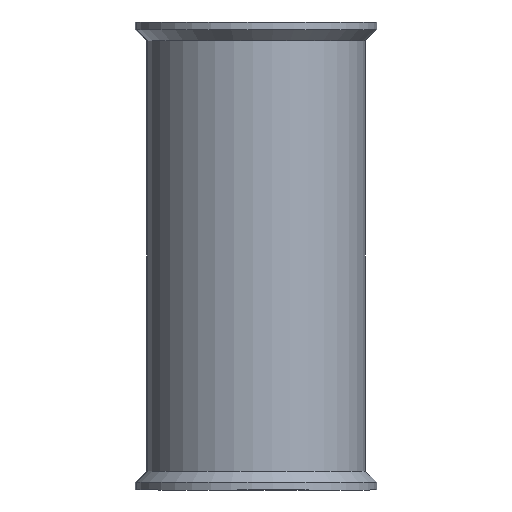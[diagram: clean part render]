
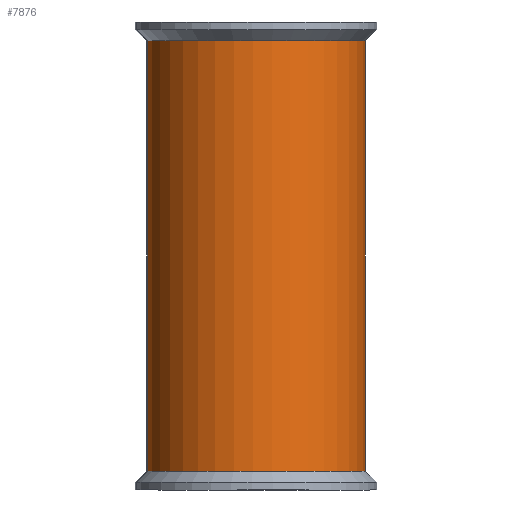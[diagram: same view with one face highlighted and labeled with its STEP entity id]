
A CAD part, front view. The second image highlights one B-rep face of the part: STEP entity #7876.
In plain terms, the highlighted cylindrical face has radius 35 mm (diameter 70 mm), a partial arc.
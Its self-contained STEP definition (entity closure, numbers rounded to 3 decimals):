
#813 = DIRECTION ( 'NONE',  ( 0., 0., 1. ) ) ;
#884 = CARTESIAN_POINT ( 'NONE',  ( 35., 0., -69. ) ) ;
#900 = CYLINDRICAL_SURFACE ( 'NONE', #7135, 35. ) ;
#954 = CIRCLE ( 'NONE', #2886, 35. ) ;
#1190 = VERTEX_POINT ( 'NONE', #9142 ) ;
#1467 = VECTOR ( 'NONE', #1977, 1000. ) ;
#1823 = DIRECTION ( 'NONE',  ( 0., 0., -1. ) ) ;
#1911 = CARTESIAN_POINT ( 'NONE',  ( 35., 0., 69. ) ) ;
#1977 = DIRECTION ( 'NONE',  ( 0., 0., -1. ) ) ;
#2069 = LINE ( 'NONE', #2730, #1467 ) ;
#2436 = EDGE_LOOP ( 'NONE', ( #2547, #3777, #9539, #5659 ) ) ;
#2518 = DIRECTION ( 'NONE',  ( -1., 0., 0. ) ) ;
#2547 = ORIENTED_EDGE ( 'NONE', *, *, #7352, .F. ) ;
#2578 = VECTOR ( 'NONE', #7419, 1000. ) ;
#2730 = CARTESIAN_POINT ( 'NONE',  ( -35., 0., 75. ) ) ;
#2882 = EDGE_CURVE ( 'NONE', #5192, #4555, #8672, .T. ) ;
#2886 = AXIS2_PLACEMENT_3D ( 'NONE', #4566, #7549, #5396 ) ;
#3764 = CARTESIAN_POINT ( 'NONE',  ( 35., 0., 75. ) ) ;
#3777 = ORIENTED_EDGE ( 'NONE', *, *, #2882, .F. ) ;
#3962 = AXIS2_PLACEMENT_3D ( 'NONE', #8420, #813, #5393 ) ;
#4555 = VERTEX_POINT ( 'NONE', #1911 ) ;
#4566 = CARTESIAN_POINT ( 'NONE',  ( 0., 0., -69. ) ) ;
#5041 = VERTEX_POINT ( 'NONE', #884 ) ;
#5192 = VERTEX_POINT ( 'NONE', #8383 ) ;
#5393 = DIRECTION ( 'NONE',  ( -1., 0., 0. ) ) ;
#5396 = DIRECTION ( 'NONE',  ( -1., 0., 0. ) ) ;
#5659 = ORIENTED_EDGE ( 'NONE', *, *, #9466, .F. ) ;
#5690 = FACE_OUTER_BOUND ( 'NONE', #2436, .T. ) ;
#7004 = CARTESIAN_POINT ( 'NONE',  ( 0., 0., 75. ) ) ;
#7135 = AXIS2_PLACEMENT_3D ( 'NONE', #7004, #1823, #2518 ) ;
#7352 = EDGE_CURVE ( 'NONE', #4555, #5041, #9726, .T. ) ;
#7419 = DIRECTION ( 'NONE',  ( 0., 0., -1. ) ) ;
#7549 = DIRECTION ( 'NONE',  ( 0., 0., -1. ) ) ;
#7659 = EDGE_CURVE ( 'NONE', #5192, #1190, #2069, .T. ) ;
#7876 = ADVANCED_FACE ( 'NONE', ( #5690 ), #900, .T. ) ;
#8383 = CARTESIAN_POINT ( 'NONE',  ( -35., 0., 69. ) ) ;
#8420 = CARTESIAN_POINT ( 'NONE',  ( 0., 0., 69. ) ) ;
#8672 = CIRCLE ( 'NONE', #3962, 35. ) ;
#9142 = CARTESIAN_POINT ( 'NONE',  ( -35., 0., -69. ) ) ;
#9466 = EDGE_CURVE ( 'NONE', #5041, #1190, #954, .T. ) ;
#9539 = ORIENTED_EDGE ( 'NONE', *, *, #7659, .T. ) ;
#9726 = LINE ( 'NONE', #3764, #2578 ) ;
